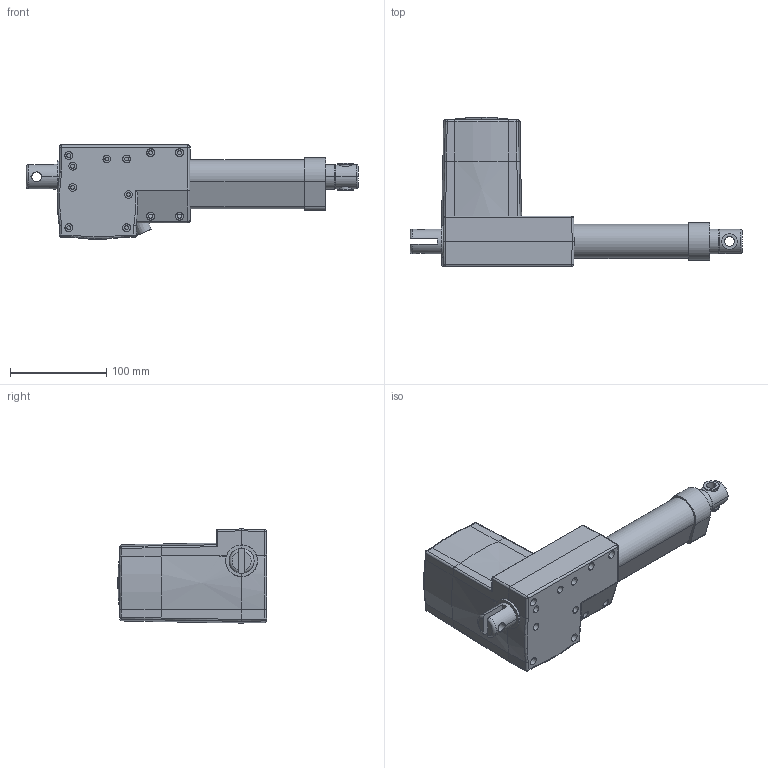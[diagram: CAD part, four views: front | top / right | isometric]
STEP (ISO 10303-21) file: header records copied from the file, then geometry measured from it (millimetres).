
FILE_DESCRIPTION((''),'2;1');
FILE_NAME('LAM3-S100_ASM','2007-07-12T',('amyliao'),(''),'PRO/ENGINEER BY PARAMETRIC TECHNOLOGY CORPORATION, 2003210','PRO/ENGINEER BY PARAMETRIC TECHNOLOGY CORPORATION, 2003210','');
FILE_SCHEMA(('CONFIG_CONTROL_DESIGN'));
Length unit declared in the file: millimetre
Products named in the file (11): LAM3-COVER-01; LAM3-100; M3-OUT-TUBE-COVER; LAM3-IN-TUBE; LAM3-IN-NUT; LAM3-05; LAM3-100_ASM; LAM3_MOTOR_COVER3_1_0430; LAM3-COVER-03; LAM3-04; LAM3-S100_ASM
Assembly tree (11 placements, depth 3):
  LAM3-S100_ASM
    LAM3-COVER-01
    LAM3-100_ASM
      LAM3-100
      M3-OUT-TUBE-COVER
      LAM3-IN-TUBE
      LAM3-IN-NUT
      LAM3-05  x2
    LAM3_MOTOR_COVER3_1_0430
    LAM3-COVER-03
    LAM3-04
Bounding box: 345 x 155 x 97.78 mm (x, y, z)
Volume: 571458.4 mm3; surface area: 267648.2 mm2
Topology: 10 solids, 10 shells, 746 faces, 2031 edges, 1330 vertices
Faces by surface type: plane 402, cylinder 220, cone 81, sphere 24, torus 15, bspline 4
Entity records: 25024 total; most frequent: CARTESIAN_POINT 5824, ORIENTED_EDGE 4014, DIRECTION 4007, EDGE_CURVE 2007, AXIS2_PLACEMENT_3D 1515, VERTEX_POINT 1318, VECTOR 977, LINE 977
